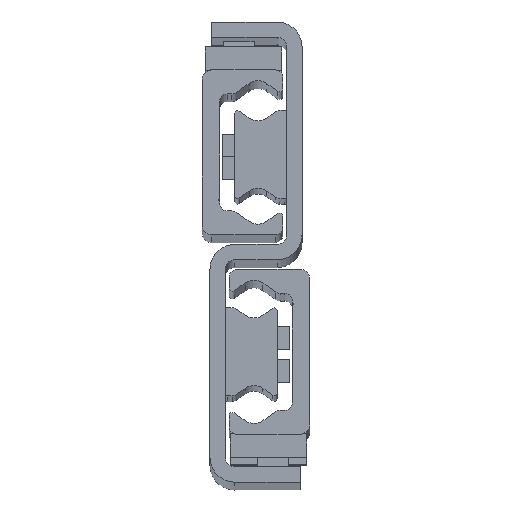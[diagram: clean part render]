
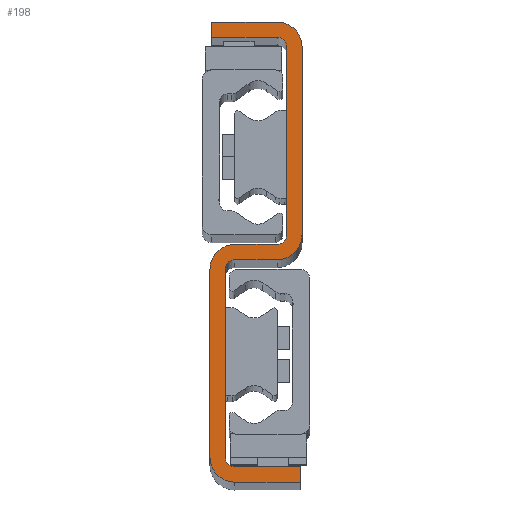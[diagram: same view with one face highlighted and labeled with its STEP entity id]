
A CAD part, top view. The second image highlights one B-rep face of the part: STEP entity #198.
In plain terms, the highlighted planar face has unit normal (0, 0, 1).
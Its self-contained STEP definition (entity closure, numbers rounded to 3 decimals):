
#198=ADVANCED_FACE('',(#665),#666,.T.);
#665=FACE_OUTER_BOUND('',#1403,.T.);
#666=PLANE('',#1404);
#1403=EDGE_LOOP('',(#2813,#2814,#2815,#2816,#2817,#2818,#2819,#2820,#2821,#2822,#2823,#2824,#2825,#2826,#2827,#2828,#2829,#2830,#2831,#2832));
#1404=AXIS2_PLACEMENT_3D('',#2833,#2834,#2835);
#2813=ORIENTED_EDGE('',*,*,#4857,.F.);
#2814=ORIENTED_EDGE('',*,*,#4915,.F.);
#2815=ORIENTED_EDGE('',*,*,#4912,.F.);
#2816=ORIENTED_EDGE('',*,*,#4909,.F.);
#2817=ORIENTED_EDGE('',*,*,#4906,.F.);
#2818=ORIENTED_EDGE('',*,*,#4903,.F.);
#2819=ORIENTED_EDGE('',*,*,#4900,.F.);
#2820=ORIENTED_EDGE('',*,*,#4897,.F.);
#2821=ORIENTED_EDGE('',*,*,#4894,.F.);
#2822=ORIENTED_EDGE('',*,*,#4891,.F.);
#2823=ORIENTED_EDGE('',*,*,#4888,.F.);
#2824=ORIENTED_EDGE('',*,*,#4885,.F.);
#2825=ORIENTED_EDGE('',*,*,#4882,.F.);
#2826=ORIENTED_EDGE('',*,*,#4879,.F.);
#2827=ORIENTED_EDGE('',*,*,#4876,.F.);
#2828=ORIENTED_EDGE('',*,*,#4873,.F.);
#2829=ORIENTED_EDGE('',*,*,#4870,.F.);
#2830=ORIENTED_EDGE('',*,*,#4867,.F.);
#2831=ORIENTED_EDGE('',*,*,#4864,.F.);
#2832=ORIENTED_EDGE('',*,*,#4861,.F.);
#2833=CARTESIAN_POINT('',(-14.,26.,1170.0));
#2834=DIRECTION('',(0.0,0.0,1.0));
#2835=DIRECTION('',(1.0,0.0,0.0));
#4857=EDGE_CURVE('',#5895,#5896,#5897,.T.);
#4861=EDGE_CURVE('',#5896,#5903,#5904,.T.);
#4864=EDGE_CURVE('',#5903,#5908,#5909,.T.);
#4867=EDGE_CURVE('',#5908,#5913,#5914,.T.);
#4870=EDGE_CURVE('',#5913,#5918,#5919,.T.);
#4873=EDGE_CURVE('',#5918,#5923,#5924,.T.);
#4876=EDGE_CURVE('',#5923,#5928,#5929,.T.);
#4879=EDGE_CURVE('',#5928,#5933,#5934,.T.);
#4882=EDGE_CURVE('',#5933,#5938,#5939,.T.);
#4885=EDGE_CURVE('',#5938,#5943,#5944,.T.);
#4888=EDGE_CURVE('',#5943,#5948,#5949,.T.);
#4891=EDGE_CURVE('',#5948,#5953,#5954,.T.);
#4894=EDGE_CURVE('',#5953,#5958,#5959,.T.);
#4897=EDGE_CURVE('',#5958,#5963,#5964,.T.);
#4900=EDGE_CURVE('',#5963,#5968,#5969,.T.);
#4903=EDGE_CURVE('',#5968,#5973,#5974,.T.);
#4906=EDGE_CURVE('',#5973,#5978,#5979,.T.);
#4909=EDGE_CURVE('',#5978,#5983,#5984,.T.);
#4912=EDGE_CURVE('',#5983,#5988,#5989,.T.);
#4915=EDGE_CURVE('',#5988,#5895,#5993,.T.);
#5895=VERTEX_POINT('',#7513);
#5896=VERTEX_POINT('',#7514);
#5897=LINE('',#7515,#7516);
#5903=VERTEX_POINT('',#7525);
#5904=CIRCLE('',#7526,2.5);
#5908=VERTEX_POINT('',#7531);
#5909=LINE('',#7532,#7533);
#5913=VERTEX_POINT('',#7539);
#5914=CIRCLE('',#7540,2.5);
#5918=VERTEX_POINT('',#7545);
#5919=LINE('',#7546,#7547);
#5923=VERTEX_POINT('',#7553);
#5924=LINE('',#7554,#7555);
#5928=VERTEX_POINT('',#7561);
#5929=LINE('',#7562,#7563);
#5933=VERTEX_POINT('',#7569);
#5934=CIRCLE('',#7570,6.5);
#5938=VERTEX_POINT('',#7575);
#5939=LINE('',#7576,#7577);
#5943=VERTEX_POINT('',#7583);
#5944=CIRCLE('',#7584,6.5);
#5948=VERTEX_POINT('',#7589);
#5949=LINE('',#7590,#7591);
#5953=VERTEX_POINT('',#7597);
#5954=CIRCLE('',#7598,2.5);
#5958=VERTEX_POINT('',#7603);
#5959=LINE('',#7604,#7605);
#5963=VERTEX_POINT('',#7611);
#5964=CIRCLE('',#7612,2.5);
#5968=VERTEX_POINT('',#7617);
#5969=LINE('',#7618,#7619);
#5973=VERTEX_POINT('',#7625);
#5974=LINE('',#7626,#7627);
#5978=VERTEX_POINT('',#7633);
#5979=LINE('',#7634,#7635);
#5983=VERTEX_POINT('',#7641);
#5984=CIRCLE('',#7642,6.5);
#5988=VERTEX_POINT('',#7647);
#5989=LINE('',#7648,#7649);
#5993=CIRCLE('',#7655,6.5);
#7513=CARTESIAN_POINT('',(-8.5,24.,1170.0));
#7514=CARTESIAN_POINT('',(-19.5,24.,1170.0));
#7515=CARTESIAN_POINT('',(-8.5,24.,1170.0));
#7516=VECTOR('',#9253,1.0);
#7525=CARTESIAN_POINT('',(-22.,21.5,1170.0));
#7526=AXIS2_PLACEMENT_3D('',#9257,#9258,#9259);
#7531=CARTESIAN_POINT('',(-22.,-27.5,1170.0));
#7532=CARTESIAN_POINT('',(-22.,-27.5,1170.0));
#7533=VECTOR('',#9264,1.0);
#7539=CARTESIAN_POINT('',(-19.5,-30.,1170.0));
#7540=AXIS2_PLACEMENT_3D('',#9267,#9268,#9269);
#7545=CARTESIAN_POINT('',(-2.5,-30.,1170.0));
#7546=CARTESIAN_POINT('',(-19.5,-30.,1170.0));
#7547=VECTOR('',#9274,1.0);
#7553=CARTESIAN_POINT('',(-2.5,-34.,1170.0));
#7554=CARTESIAN_POINT('',(-2.5,-34.,1170.0));
#7555=VECTOR('',#9277,1.0);
#7561=CARTESIAN_POINT('',(-19.5,-34.,1170.0));
#7562=CARTESIAN_POINT('',(-19.5,-34.,1170.0));
#7563=VECTOR('',#9280,1.0);
#7569=CARTESIAN_POINT('',(-26.,-27.5,1170.0));
#7570=AXIS2_PLACEMENT_3D('',#9283,#9284,#9285);
#7575=CARTESIAN_POINT('',(-26.,21.5,1170.0));
#7576=CARTESIAN_POINT('',(-26.,21.5,1170.0));
#7577=VECTOR('',#9290,1.0);
#7583=CARTESIAN_POINT('',(-19.5,28.,1170.0));
#7584=AXIS2_PLACEMENT_3D('',#9293,#9294,#9295);
#7589=CARTESIAN_POINT('',(-8.5,28.,1170.0));
#7590=CARTESIAN_POINT('',(-8.5,28.,1170.0));
#7591=VECTOR('',#9300,1.0);
#7597=CARTESIAN_POINT('',(-6.,30.5,1170.0));
#7598=AXIS2_PLACEMENT_3D('',#9303,#9304,#9305);
#7603=CARTESIAN_POINT('',(-6.,79.5,1170.0));
#7604=CARTESIAN_POINT('',(-6.,79.5,1170.0));
#7605=VECTOR('',#9310,1.0);
#7611=CARTESIAN_POINT('',(-8.5,82.,1170.0));
#7612=AXIS2_PLACEMENT_3D('',#9313,#9314,#9315);
#7617=CARTESIAN_POINT('',(-25.5,82.,1170.0));
#7618=CARTESIAN_POINT('',(-25.5,82.,1170.0));
#7619=VECTOR('',#9320,1.0);
#7625=CARTESIAN_POINT('',(-25.5,86.,1170.0));
#7626=CARTESIAN_POINT('',(-25.5,86.,1170.0));
#7627=VECTOR('',#9323,1.0);
#7633=CARTESIAN_POINT('',(-8.5,86.,1170.0));
#7634=CARTESIAN_POINT('',(-25.5,86.,1170.0));
#7635=VECTOR('',#9326,1.0);
#7641=CARTESIAN_POINT('',(-2.,79.5,1170.0));
#7642=AXIS2_PLACEMENT_3D('',#9329,#9330,#9331);
#7647=CARTESIAN_POINT('',(-2.,30.5,1170.0));
#7648=CARTESIAN_POINT('',(-2.,79.5,1170.0));
#7649=VECTOR('',#9336,1.0);
#7655=AXIS2_PLACEMENT_3D('',#9339,#9340,#9341);
#9253=DIRECTION('',(-1.0,0.,0.0));
#9257=CARTESIAN_POINT('',(-19.5,21.5,1170.0));
#9258=DIRECTION('',(0.0,0.0,1.0));
#9259=DIRECTION('',(1.0,0.0,0.0));
#9264=DIRECTION('',(-0.0,-1.0,-0.0));
#9267=CARTESIAN_POINT('',(-19.5,-27.5,1170.0));
#9268=DIRECTION('',(0.0,0.0,1.0));
#9269=DIRECTION('',(1.0,0.0,0.0));
#9274=DIRECTION('',(1.,0.,0.0));
#9277=DIRECTION('',(-0.0,-1.0,-0.0));
#9280=DIRECTION('',(-1.,0.,-0.0));
#9283=CARTESIAN_POINT('',(-19.5,-27.5,1170.0));
#9284=DIRECTION('',(0.0,0.0,-1.0));
#9285=DIRECTION('',(1.0,0.0,0.0));
#9290=DIRECTION('',(0.0,1.0,0.0));
#9293=CARTESIAN_POINT('',(-19.5,21.5,1170.0));
#9294=DIRECTION('',(0.0,0.0,-1.0));
#9295=DIRECTION('',(1.0,0.0,0.0));
#9300=DIRECTION('',(1.0,0.,0.0));
#9303=CARTESIAN_POINT('',(-8.5,30.5,1170.0));
#9304=DIRECTION('',(0.0,0.0,1.0));
#9305=DIRECTION('',(1.0,0.0,0.0));
#9310=DIRECTION('',(0.0,1.0,0.0));
#9313=CARTESIAN_POINT('',(-8.5,79.5,1170.0));
#9314=DIRECTION('',(0.0,0.0,1.0));
#9315=DIRECTION('',(1.0,0.0,0.0));
#9320=DIRECTION('',(-1.,0.,0.0));
#9323=DIRECTION('',(0.0,1.0,0.0));
#9326=DIRECTION('',(1.,0.,0.0));
#9329=CARTESIAN_POINT('',(-8.5,79.5,1170.0));
#9330=DIRECTION('',(0.0,0.0,-1.0));
#9331=DIRECTION('',(1.0,0.0,0.0));
#9336=DIRECTION('',(0.,-1.0,0.0));
#9339=CARTESIAN_POINT('',(-8.5,30.5,1170.0));
#9340=DIRECTION('',(0.0,0.0,-1.0));
#9341=DIRECTION('',(1.0,0.0,0.0));
